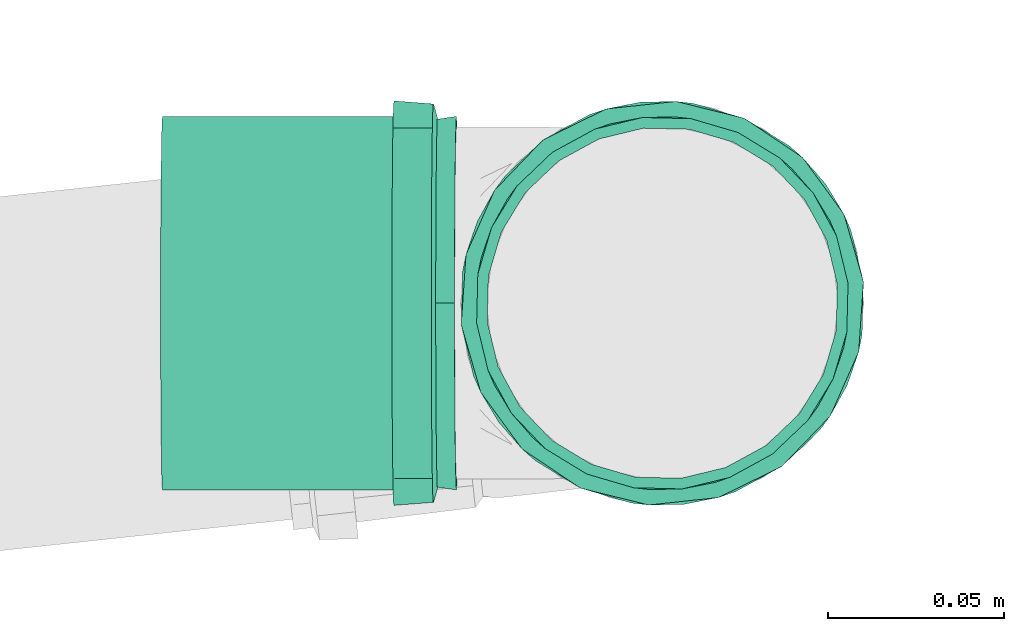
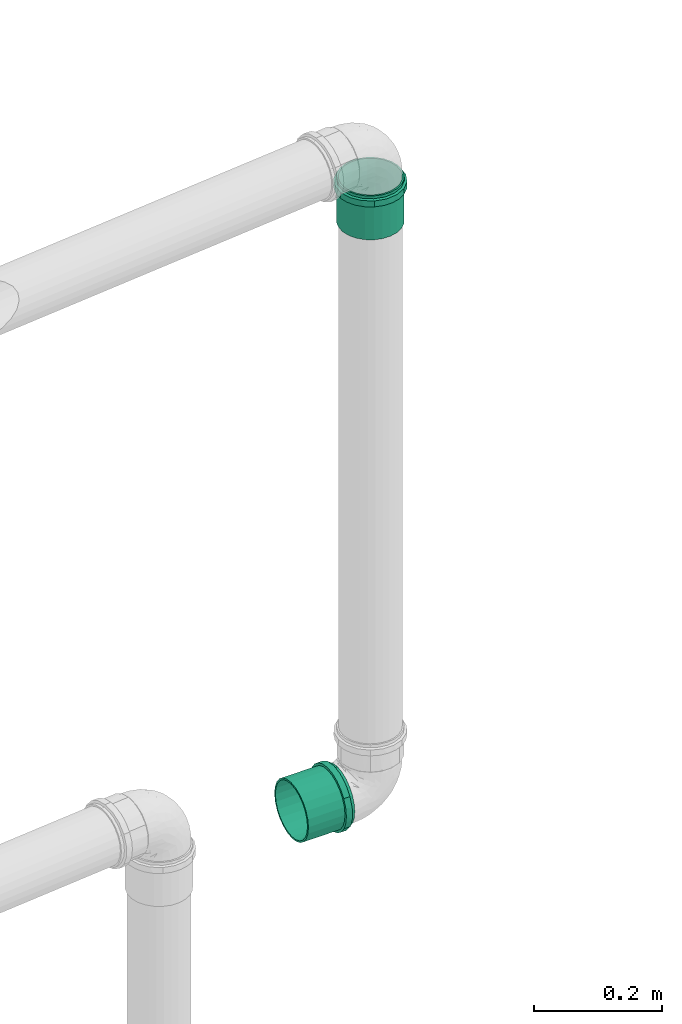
# One storey, part 42 of 97: 2 flow fittings.
"""IFC2X3 building model written with IfcOpenShell, lengths in centimetres."""

from ifc_helpers import new_model, entity, si_unit, converted_unit, derived_unit, direction, frame, origin, place, context, subcontext, project, spatial, faceted_brep, source, transform, mapped, material, type_object, type_shapes, element, save


model = new_model("IFC2X3")

# Units and contexts
model_context = context("Model", 3, precision=0.001, world=origin(), true_north=direction((6.12303176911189e-17, 1.0)))
body_context = subcontext(model_context, "Body", "Model", "MODEL_VIEW")
ifc_project = project(units=[si_unit("LENGTHUNIT", "METRE", prefix="CENTI"), si_unit("AREAUNIT", "SQUARE_METRE"), si_unit("VOLUMEUNIT", "CUBIC_METRE"), converted_unit("PLANEANGLEUNIT", "DEGREE", entity("IfcRatioMeasure", 0.0174532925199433), si_unit("PLANEANGLEUNIT", "RADIAN"), dimensions=[0, 0, 0, 0, 0, 0, 0]), si_unit("MASSUNIT", "GRAM", prefix="KILO"), derived_unit("MASSDENSITYUNIT", [(si_unit("MASSUNIT", "GRAM", prefix="KILO"), 1), (si_unit("LENGTHUNIT", "METRE"), -3)]), derived_unit("MOMENTOFINERTIAUNIT", [(si_unit("LENGTHUNIT", "METRE"), 4)]), si_unit("TIMEUNIT", "SECOND"), si_unit("FREQUENCYUNIT", "HERTZ"), si_unit("THERMODYNAMICTEMPERATUREUNIT", "DEGREE_CELSIUS"), derived_unit("THERMALTRANSMITTANCEUNIT", [(si_unit("MASSUNIT", "GRAM", prefix="KILO"), 1), (si_unit("THERMODYNAMICTEMPERATUREUNIT", "KELVIN"), -1), (si_unit("TIMEUNIT", "SECOND"), -3)]), derived_unit("VOLUMETRICFLOWRATEUNIT", [(si_unit("LENGTHUNIT", "METRE"), 3), (si_unit("TIMEUNIT", "SECOND"), -1)]), si_unit("ELECTRICCURRENTUNIT", "AMPERE"), si_unit("ELECTRICVOLTAGEUNIT", "VOLT"), si_unit("POWERUNIT", "WATT"), si_unit("FORCEUNIT", "NEWTON", prefix="KILO"), si_unit("ILLUMINANCEUNIT", "LUX"), si_unit("LUMINOUSFLUXUNIT", "LUMEN"), si_unit("LUMINOUSINTENSITYUNIT", "CANDELA"), derived_unit("USERDEFINED", [(si_unit("MASSUNIT", "GRAM", prefix="KILO"), -1), (si_unit("LENGTHUNIT", "METRE"), -2), (si_unit("TIMEUNIT", "SECOND"), 3), (si_unit("LUMINOUSFLUXUNIT", "LUMEN"), 1)]), derived_unit("LINEARVELOCITYUNIT", [(si_unit("LENGTHUNIT", "METRE"), 1), (si_unit("TIMEUNIT", "SECOND"), -1)]), si_unit("PRESSUREUNIT", "PASCAL"), derived_unit("USERDEFINED", [(si_unit("LENGTHUNIT", "METRE"), -2), (si_unit("MASSUNIT", "GRAM", prefix="KILO"), 1), (si_unit("TIMEUNIT", "SECOND"), -2)]), derived_unit("LINEARFORCEUNIT", [(si_unit("MASSUNIT", "GRAM", prefix="KILO"), 1), (si_unit("LENGTHUNIT", "METRE"), 1), (si_unit("TIMEUNIT", "SECOND"), -2), (si_unit("LENGTHUNIT", "METRE"), -1)]), derived_unit("PLANARFORCEUNIT", [(si_unit("MASSUNIT", "GRAM", prefix="KILO"), 1), (si_unit("LENGTHUNIT", "METRE"), 1), (si_unit("TIMEUNIT", "SECOND"), -2), (si_unit("LENGTHUNIT", "METRE"), -2)])], contexts=[model_context])

# Site, building, storey
site_placement = place(None, origin())
site = spatial("IfcSite", under=ifc_project, at=site_placement, Name="Default", CompositionType="ELEMENT")
building_placement = place(site_placement, origin())
building = spatial("IfcBuilding", under=site, at=building_placement, Name="HIDROSSANITÁRIO", CompositionType="ELEMENT")
storey_placement = place(building_placement, frame((0.0, 0.0, -260.0)))
storey = spatial("IfcBuildingStorey", under=building, at=storey_placement, Name="TÉRREO-HID", CompositionType="ELEMENT", Elevation=-260.0)

# Flow fittings
ifc_material = material(Name="PVC Branco")
pipe_fitting_type = type_object("IfcPipeFittingType", Name="Luva Simples para Conexão - Serie Normal - Esgoto - MEP - Tigre:Standard", PredefinedType="NOTDEFINED", material=ifc_material)
shared_shape = source(origin(), body_context, "Body", "Brep", [
    faceted_brep([(1.77700000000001, 2.8725, -4.9753159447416), (1.77700000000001, 4.06232845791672, -4.06232845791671), (1.77700000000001, 2.65249999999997, -4.59426476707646), (1.77700000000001, 1.37303503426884, -5.12423650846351), (1.77700000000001, 1.48691541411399, -5.5492438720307), (1.77700000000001, 3.75120147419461, -3.75120147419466), (1.77700000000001, 4.9753159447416, -2.8725), (1.77700000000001, 4.59426476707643, -2.65250000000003), (1.77700000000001, 5.1242365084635, -1.37303503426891), (1.77700000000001, 5.5492438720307, -1.48691541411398), (1.77700000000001, 5.305, 0.0), (1.77700000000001, 5.745, 0.0), (1.77700000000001, 5.1242365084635, 1.3730350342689), (1.77700000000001, 5.54924387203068, 1.48691541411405), (1.77700000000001, 4.59426476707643, 2.65250000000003), (1.77700000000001, 4.97531594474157, 2.87250000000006), (1.77700000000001, 3.75120147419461, 3.75120147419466), (1.77700000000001, 4.06232845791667, 4.06232845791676), (1.77700000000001, 2.65249999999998, 4.59426476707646), (1.77700000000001, 2.87249999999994, 4.97531594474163), (1.77700000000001, 1.37303503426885, 5.12423650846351), (1.77700000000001, 1.48691541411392, 5.54924387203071), (1.77700000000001, 0.0, 5.305), (1.77700000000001, 0.0, 5.745), (1.77700000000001, -1.37303503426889, 5.1242365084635), (1.77700000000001, -1.48691541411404, 5.54924387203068), (1.77700000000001, -2.65250000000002, 4.59426476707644), (1.77700000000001, -2.87250000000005, 4.97531594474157), (1.77700000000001, -3.75120147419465, 3.75120147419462), (1.77700000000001, -4.06232845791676, 4.06232845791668), (1.77700000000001, -4.59426476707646, 2.65249999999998), (1.77700000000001, -4.97531594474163, 2.87249999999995), (1.77700000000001, -5.54924387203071, 1.48691541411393), (1.77700000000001, -5.12423650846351, 1.37303503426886), (1.77700000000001, -5.745, 0.0), (1.77700000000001, -5.305, 0.0), (1.77700000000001, -5.54924387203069, -1.486915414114), (1.77700000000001, -5.12423650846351, -1.37303503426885), (1.77700000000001, -4.97531594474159, -2.87250000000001), (1.77700000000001, -4.59426476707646, -2.65249999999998), (1.77700000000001, -4.06232845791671, -4.06232845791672), (1.77700000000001, -3.75120147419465, -3.75120147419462), (1.77700000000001, -2.87249999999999, -4.97531594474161), (1.77700000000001, -2.65250000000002, -4.59426476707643), (1.77700000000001, -1.48691541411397, -5.5492438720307), (1.77700000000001, -1.3730350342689, -5.1242365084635), (1.77700000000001, 0.0, -5.745), (1.77700000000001, 0.0, -5.305), (0.657000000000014, -1.93463887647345, 5.31665771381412), (0.657000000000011, -4.4007619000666, 3.69300957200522), (0.657000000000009, -4.89962626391, 2.82901737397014), (0.657000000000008, -5.39849062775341, 1.96502517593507), (0.657000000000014, -2.87216972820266, 4.97550661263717), (0.657000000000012, -3.63646581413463, 4.3342580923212), (0.657000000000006, -5.5717453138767, 0.982512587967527), (0.657000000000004, -5.745, 0.0), (0.657000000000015, -0.997108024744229, 5.65780881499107), (0.657000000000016, 0.998234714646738, 5.65761013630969), (0.657000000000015, 0.0005633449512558, 5.65770947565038), (0.657000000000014, 3.63732887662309, 4.33353383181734), (0.657000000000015, 1.93569761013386, 5.31627233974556), (0.657000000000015, 2.87316050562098, 4.97493454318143), (0.65700000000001, 5.39888184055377, 1.96395006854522), (0.657000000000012, 4.90018954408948, 2.82804159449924), (0.657000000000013, 4.40149724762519, 3.69213312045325), (0.657000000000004, 5.745, 0.0), (0.656999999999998, 4.40149724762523, -3.6921331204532), (0.657, 4.90018954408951, -2.82804159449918), (0.657000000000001, 5.39888184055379, -1.96395006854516), (0.656999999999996, 2.87316050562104, -4.9749345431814), (0.656999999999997, 3.63732887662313, -4.3335338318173), (0.656999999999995, 1.93569761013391, -5.31627233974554), (0.656999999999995, 0.998234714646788, -5.65761013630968), (0.656999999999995, -0.997108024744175, -5.65780881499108), (0.656999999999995, 0.000563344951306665, -5.65770947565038), (0.656999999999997, -3.6364658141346, -4.33425809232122), (0.656999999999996, -2.87216972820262, -4.9755066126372), (0.656999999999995, -1.9346388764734, -5.31665771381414), (0.657000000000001, -5.39849062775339, -1.96502517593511), (0.657, -4.89962626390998, -2.82901737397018), (0.656999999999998, -4.40076190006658, -3.69300957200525), (0.657000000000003, -5.5717453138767, -0.982512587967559), (8.35200000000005, 2.6525, -4.59426476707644), (8.35200000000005, 3.75120147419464, -3.75120147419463), (8.35200000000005, 2.49999999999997, -4.33012701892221), (8.35200000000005, 1.29409522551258, -4.82962913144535), (8.35200000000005, 1.37303503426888, -5.1242365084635), (8.35200000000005, 3.53553390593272, -3.53553390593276), (8.35200000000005, 4.59426476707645, -2.6525), (8.35200000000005, 4.33012701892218, -2.50000000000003), (8.35200000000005, 4.82962913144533, -1.29409522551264), (8.35200000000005, 5.12423650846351, -1.37303503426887), (8.35200000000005, 5.0, 0.0), (8.35200000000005, 5.305, 0.0), (8.35200000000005, 4.82962913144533, 1.29409522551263), (8.35200000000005, 5.12423650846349, 1.37303503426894), (8.35200000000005, 4.33012701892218, 2.50000000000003), (8.35200000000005, 4.59426476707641, 2.65250000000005), (8.35200000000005, 3.53553390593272, 3.53553390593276), (8.35200000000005, 3.75120147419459, 3.75120147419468), (8.35200000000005, 2.49999999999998, 4.33012701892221), (8.35200000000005, 2.65249999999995, 4.59426476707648), (8.35200000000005, 1.29409522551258, 4.82962913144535), (8.35200000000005, 1.37303503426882, 5.12423650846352), (8.35200000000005, 0.0, 5.0), (8.35200000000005, 0.0, 5.305), (8.35200000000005, -1.29409522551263, 4.82962913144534), (8.35200000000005, -1.37303503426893, 5.12423650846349), (8.35200000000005, -2.50000000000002, 4.33012701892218), (8.35200000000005, -2.65250000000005, 4.59426476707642), (8.35200000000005, -3.53553390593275, 3.53553390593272), (8.35200000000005, -3.75120147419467, 3.7512014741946), (8.35200000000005, -4.3301270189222, 2.49999999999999), (8.35200000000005, -4.59426476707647, 2.65249999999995), (8.35200000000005, -5.12423650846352, 1.37303503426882), (8.35200000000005, -4.82962913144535, 1.29409522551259), (8.35200000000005, -5.305, 0.0), (8.35200000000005, -5.0, 0.0), (8.35200000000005, -5.1242365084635, -1.37303503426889), (8.35200000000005, -4.82962913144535, -1.29409522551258), (8.35200000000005, -4.59426476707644, -2.65250000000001), (8.35200000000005, -4.3301270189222, -2.49999999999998), (8.35200000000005, -3.75120147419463, -3.75120147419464), (8.35200000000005, -3.53553390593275, -3.53553390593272), (8.35200000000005, -2.65249999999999, -4.59426476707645), (8.35200000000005, -2.50000000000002, -4.33012701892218), (8.35200000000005, -1.37303503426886, -5.12423650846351), (8.35200000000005, -1.29409522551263, -4.82962913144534), (8.35200000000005, 0.0, -5.305), (8.35200000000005, 0.0, -5.0), (0.0, 2.49999999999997, -4.33012701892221), (0.0, 3.75120147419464, -3.75120147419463), (0.0, 2.6525, -4.59426476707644), (0.0, 1.29409522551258, -4.82962913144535), (0.0, 3.53553390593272, -3.53553390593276), (0.0, 4.59426476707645, -2.6525), (0.0, 4.33012701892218, -2.50000000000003), (0.0, 4.82962913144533, -1.29409522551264), (0.0, 5.12423650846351, -1.37303503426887), (0.0, 5.0, 0.0), (0.0, 5.305, 0.0), (0.0, 4.82962913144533, 1.29409522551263), (0.0, 5.12423650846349, 1.37303503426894), (0.0, 4.33012701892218, 2.50000000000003), (0.0, 4.59426476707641, 2.65250000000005), (0.0, 3.53553390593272, 3.53553390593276), (0.0, 3.75120147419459, 3.75120147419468), (0.0, 2.49999999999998, 4.33012701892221), (0.0, 2.65249999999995, 4.59426476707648), (0.0, 1.29409522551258, 4.82962913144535), (0.0, 1.37303503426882, 5.12423650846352), (0.0, 0.0, 5.0), (0.0, 0.0, 5.305), (0.0, -1.29409522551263, 4.82962913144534), (0.0, -1.37303503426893, 5.12423650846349), (0.0, -2.50000000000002, 4.33012701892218), (0.0, -2.65250000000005, 4.59426476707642), (0.0, -3.53553390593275, 3.53553390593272), (0.0, -3.75120147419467, 3.7512014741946), (0.0, -4.3301270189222, 2.49999999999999), (0.0, -4.59426476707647, 2.65249999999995), (0.0, -5.12423650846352, 1.37303503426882), (0.0, -4.82962913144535, 1.29409522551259), (0.0, -5.305, 0.0), (0.0, -5.0, 0.0), (0.0, -5.1242365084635, -1.37303503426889), (0.0, -4.82962913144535, -1.29409522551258), (0.0, -4.59426476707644, -2.65250000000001), (0.0, -4.3301270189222, -2.49999999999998), (0.0, -3.75120147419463, -3.75120147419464), (0.0, -3.53553390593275, -3.53553390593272), (0.0, -2.65249999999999, -4.59426476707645), (0.0, -2.50000000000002, -4.33012701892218), (0.0, -1.37303503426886, -5.12423650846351), (0.0, -1.29409522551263, -4.82962913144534), (0.0, 0.0, -5.305), (0.0, 0.0, -5.0), (0.0, 1.37303503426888, -5.1242365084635), (0.537000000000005, -5.305, 0.0), (0.537000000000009, -4.98507989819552, 1.81438788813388), (0.537000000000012, -4.06390540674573, 3.4099410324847), (0.537000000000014, -2.65258010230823, 4.59421851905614), (0.537000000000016, -0.921325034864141, 5.22438371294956), (0.537000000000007, 5.1449924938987, 0.907324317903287), (0.537000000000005, 5.305, 0.0), (0.537000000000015, 2.65233979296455, 4.59435725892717), (0.537000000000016, 0.921051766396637, 5.22443189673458), (0.537000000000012, 4.06372704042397, 3.41015359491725), (0.537000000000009, 4.9849849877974, 1.81464863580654), (0.537000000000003, 5.14499249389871, -0.907324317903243), (0.537000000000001, 4.98498498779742, -1.81464863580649), (0.536999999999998, 4.063727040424, -3.41015359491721), (0.536999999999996, 2.6523397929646, -4.59435725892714), (0.536999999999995, 0.921051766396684, -5.22443189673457), (0.536999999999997, -2.6525801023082, -4.59421851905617), (0.536999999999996, -0.921325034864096, -5.22438371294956), (0.536999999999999, -4.0639054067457, -3.40994103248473), (0.537000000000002, -4.98507989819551, -1.81438788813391), (5.0, -5.0, 0.0), (5.0, 5.0, 0.0)], [[[0, 1, 2]], [[0, 2, 3]], [[3, 4, 0]], [[2, 1, 5]], [[6, 5, 1]], [[5, 6, 7]], [[7, 6, 8]], [[9, 8, 6]], [[9, 10, 8]], [[10, 9, 11]], [[12, 10, 11]], [[11, 13, 12]], [[12, 13, 14]], [[15, 14, 13]], [[14, 15, 16]], [[16, 15, 17]], [[18, 16, 17]], [[17, 19, 18]], [[18, 19, 20]], [[21, 20, 19]], [[20, 21, 22]], [[22, 21, 23]], [[22, 23, 24]], [[24, 23, 25]], [[24, 25, 26]], [[27, 26, 25]], [[27, 28, 26]], [[28, 27, 29]], [[29, 30, 28]], [[31, 30, 29]], [[30, 31, 32]], [[32, 33, 30]], [[34, 33, 32]], [[34, 35, 33]], [[36, 35, 34]], [[36, 37, 35]], [[37, 36, 38]], [[38, 39, 37]], [[39, 38, 40]], [[39, 40, 41]], [[40, 42, 41]], [[41, 42, 43]], [[43, 42, 44]], [[44, 45, 43]], [[46, 45, 44]], [[4, 47, 46]], [[46, 47, 45]], [[4, 3, 47]], [[48, 27, 25]], [[31, 29, 49]], [[31, 49, 50, 51]], [[52, 53, 27]], [[32, 51, 54]], [[54, 55, 34]], [[54, 34, 32]], [[25, 56, 48]], [[49, 29, 53]], [[23, 57, 58, 56]], [[59, 19, 17]], [[27, 53, 29]], [[48, 52, 27]], [[31, 51, 32]], [[57, 23, 21]], [[60, 19, 61]], [[15, 62, 63, 64]], [[19, 60, 21]], [[15, 13, 62]], [[17, 64, 59]], [[57, 21, 60]], [[23, 56, 25]], [[15, 64, 17]], [[13, 65, 62]], [[13, 11, 65]], [[59, 61, 19]], [[65, 11, 9]], [[6, 1, 66]], [[6, 66, 67, 68]], [[69, 70, 0]], [[68, 65, 9]], [[71, 69, 0]], [[71, 0, 4]], [[4, 72, 71]], [[66, 1, 70]], [[46, 73, 74, 72]], [[75, 76, 42]], [[0, 70, 1]], [[75, 42, 40]], [[6, 68, 9]], [[73, 46, 44]], [[77, 42, 76]], [[38, 78, 79, 80]], [[42, 77, 44]], [[38, 36, 78]], [[40, 80, 75]], [[73, 44, 77]], [[46, 72, 4]], [[38, 80, 40]], [[81, 78, 36]], [[55, 81, 34]], [[34, 81, 36]], [[82, 83, 84]], [[82, 84, 85]], [[85, 86, 82]], [[84, 83, 87]], [[88, 87, 83]], [[87, 88, 89]], [[89, 88, 90]], [[91, 90, 88]], [[91, 92, 90]], [[92, 91, 93]], [[94, 92, 93]], [[93, 95, 94]], [[94, 95, 96]], [[97, 96, 95]], [[96, 97, 98]], [[98, 97, 99]], [[100, 98, 99]], [[99, 101, 100]], [[100, 101, 102]], [[103, 102, 101]], [[102, 103, 104]], [[104, 103, 105]], [[104, 105, 106]], [[106, 105, 107]], [[106, 107, 108]], [[109, 108, 107]], [[110, 108, 109]], [[110, 109, 111]], [[111, 112, 110]], [[113, 112, 111]], [[112, 113, 114]], [[114, 115, 112]], [[116, 115, 114]], [[116, 117, 115]], [[118, 117, 116]], [[118, 119, 117]], [[119, 118, 120]], [[120, 121, 119]], [[121, 120, 122]], [[121, 122, 123]], [[122, 124, 123]], [[125, 123, 124]], [[125, 124, 126]], [[126, 127, 125]], [[128, 127, 126]], [[86, 129, 128]], [[128, 129, 127]], [[86, 85, 129]], [[130, 131, 132]], [[133, 130, 132]], [[134, 131, 130]], [[131, 134, 135]], [[136, 135, 134]], [[137, 135, 136]], [[135, 137, 138]], [[137, 139, 138]], [[140, 138, 139]], [[140, 139, 141]], [[141, 142, 140]], [[143, 142, 141]], [[142, 143, 144]], [[145, 144, 143]], [[146, 144, 145]], [[146, 145, 147]], [[147, 148, 146]], [[149, 148, 147]], [[148, 149, 150]], [[151, 150, 149]], [[152, 150, 151]], [[153, 152, 151]], [[154, 152, 153]], [[155, 154, 153]], [[154, 155, 156]], [[156, 155, 157]], [[158, 156, 157]], [[157, 159, 158]], [[158, 159, 160]], [[161, 160, 159]], [[159, 162, 161]], [[161, 162, 163]], [[162, 164, 163]], [[163, 164, 165]], [[164, 166, 165]], [[167, 165, 166]], [[166, 168, 167]], [[169, 167, 168]], [[170, 169, 168]], [[170, 171, 169]], [[171, 170, 172]], [[173, 171, 172]], [[172, 174, 173]], [[173, 174, 175]], [[174, 176, 175]], [[176, 133, 177]], [[175, 176, 177]], [[132, 177, 133]], [[161, 178, 179]], [[158, 180, 181]], [[179, 180, 160]], [[181, 182, 154]], [[179, 160, 161]], [[161, 163, 178]], [[35, 116, 114, 33]], [[183, 184, 140]], [[181, 156, 158]], [[158, 160, 180]], [[181, 154, 156]], [[182, 152, 154]], [[183, 140, 142]], [[185, 150, 186]], [[187, 146, 185]], [[142, 188, 183]], [[187, 188, 144]], [[185, 148, 150]], [[150, 152, 186]], [[187, 144, 146]], [[146, 148, 185]], [[188, 142, 144]], [[186, 152, 182]], [[189, 190, 138]], [[131, 191, 192]], [[190, 191, 135]], [[192, 193, 177]], [[190, 135, 138]], [[184, 189, 140]], [[192, 132, 131]], [[131, 135, 191]], [[192, 177, 132]], [[193, 175, 177]], [[140, 189, 138]], [[194, 173, 195]], [[196, 169, 194]], [[165, 197, 178]], [[196, 197, 167]], [[165, 178, 163]], [[35, 37, 118, 116]], [[194, 171, 173]], [[173, 175, 195]], [[196, 167, 169]], [[169, 171, 194]], [[197, 165, 167]], [[195, 175, 193]], [[115, 117, 198, 164, 162]], [[155, 108, 110, 157]], [[110, 112, 159, 157]], [[112, 115, 162, 159]], [[106, 108, 155, 153]], [[153, 151, 104, 106]], [[102, 104, 151, 149]], [[102, 149, 147, 100]], [[141, 94, 96, 143]], [[96, 98, 145, 143]], [[98, 100, 147, 145]], [[92, 94, 141, 139, 199]], [[199, 139, 137, 90, 92]], [[87, 89, 136, 134]], [[134, 130, 84, 87]], [[89, 90, 137, 136]], [[85, 84, 130, 133]], [[133, 176, 129, 85]], [[127, 129, 176, 174]], [[127, 174, 172, 125]], [[166, 119, 121, 168]], [[121, 123, 170, 168]], [[123, 125, 172, 170]], [[117, 119, 166, 164, 198]], [[81, 178, 197]], [[190, 68, 67]], [[194, 75, 196]], [[193, 72, 74]], [[195, 77, 194]], [[79, 197, 196]], [[81, 55, 178]], [[192, 69, 71]], [[79, 78, 197]], [[194, 77, 76]], [[191, 66, 70]], [[80, 196, 75]], [[68, 190, 189]], [[74, 195, 193]], [[192, 71, 193]], [[190, 67, 191]], [[70, 192, 191]], [[65, 189, 184]], [[195, 73, 77]], [[193, 71, 72]], [[197, 78, 81]], [[191, 67, 66]], [[189, 65, 68]], [[196, 80, 79]], [[70, 69, 192]], [[194, 76, 75]], [[73, 195, 74]], [[65, 183, 62]], [[48, 56, 182]], [[58, 182, 56]], [[54, 51, 179]], [[59, 185, 61]], [[60, 186, 57]], [[53, 52, 181]], [[63, 187, 64]], [[58, 57, 186]], [[187, 63, 188]], [[186, 60, 185]], [[50, 49, 180]], [[185, 59, 187]], [[59, 64, 187]], [[182, 58, 186]], [[50, 179, 51]], [[54, 178, 55]], [[53, 180, 49]], [[63, 62, 188]], [[181, 48, 182]], [[183, 65, 184]], [[179, 50, 180]], [[178, 54, 179]], [[183, 188, 62]], [[180, 53, 181]], [[60, 61, 185]], [[48, 181, 52]], [[30, 33, 114, 113]], [[26, 28, 111, 109]], [[113, 111, 28, 30]], [[107, 24, 26, 109]], [[107, 105, 22, 24]], [[18, 20, 103, 101]], [[99, 16, 18, 101]], [[12, 14, 97, 95]], [[99, 97, 14, 16]], [[10, 12, 95, 93]], [[103, 20, 22, 105]], [[91, 8, 10, 93]], [[88, 7, 8, 91]], [[82, 86, 3, 2]], [[83, 5, 7, 88]], [[2, 5, 83, 82]], [[86, 128, 47, 3]], [[43, 45, 126, 124]], [[122, 41, 43, 124]], [[37, 39, 120, 118]], [[122, 120, 39, 41]], [[126, 45, 47, 128]]]),
])
type_shapes(pipe_fitting_type, [shared_shape])
for number, where, z_axis, x_axis, name in (
    (1, (2954.84803579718, 1356.7685198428, 614.1), (0.106567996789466, -0.994305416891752, 0.0), (0.0, 0.0, -1.0), "Luva Simples para Conexão - Serie Normal - Esgoto - MEP - Tigre:Standard"),
    (2, (2948.99963970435, 1356.77088960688, 498.556720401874), (3.45467445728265e-06, 1.0, 3.31690171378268e-06), (-0.999950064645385, 3.48764909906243e-06, -0.00999340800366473), "Luva Simples para Conexão - Serie Normal - Esgoto - MEP - Tigre:Standard"),
):
    element("IfcFlowFitting", number, at=place(storey_placement, frame(where, z_axis=z_axis, x_axis=x_axis)), inside=storey, type_object=pipe_fitting_type, material=ifc_material, Name=name, ObjectType="Luva Simples para Conexão - Serie Normal - Esgoto - MEP - Tigre:Standard", context=body_context, shape_type="MappedRepresentation", body=[
        mapped(shared_shape, transform((0.0, 0.0, 0.0), scale=1.0)),
    ])

save(model, "model.ifc")
